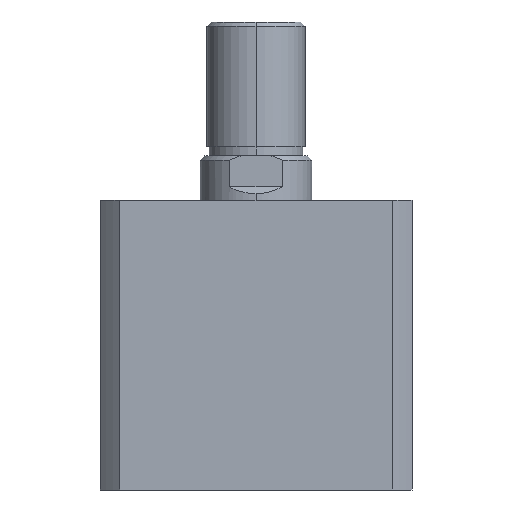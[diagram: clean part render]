
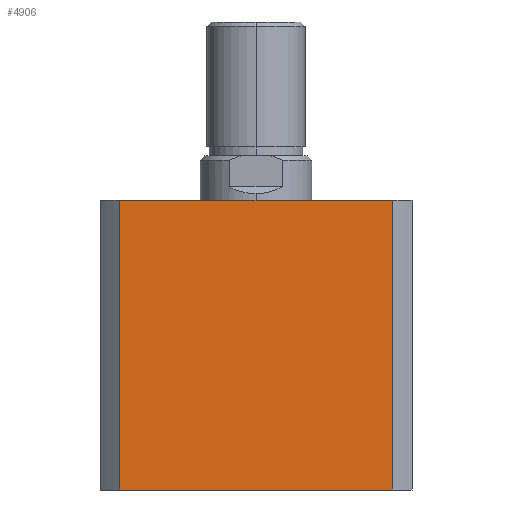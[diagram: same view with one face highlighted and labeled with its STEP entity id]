
A CAD part, left-side view. The second image highlights one B-rep face of the part: STEP entity #4906.
In plain terms, the highlighted planar face has unit normal (-1, 0, 0).
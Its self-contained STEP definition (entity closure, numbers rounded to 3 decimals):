
#17 = CARTESIAN_POINT ( 'NONE',  ( -35., -30.615, 65. ) ) ;
#18 = CARTESIAN_POINT ( 'NONE',  ( -35., 30.615, 65. ) ) ;
#80 = CARTESIAN_POINT ( 'NONE',  ( -35., -30.615, 0. ) ) ;
#187 = CARTESIAN_POINT ( 'NONE',  ( -35., 30.615, 0. ) ) ;
#345 = DIRECTION ( 'NONE',  ( 0., -1., 0. ) ) ;
#349 = CARTESIAN_POINT ( 'NONE',  ( -35., 0., 0. ) ) ;
#1096 = EDGE_LOOP ( 'NONE', ( #1993, #1994, #1995, #1996 ) ) ;
#1420 = FACE_OUTER_BOUND ( 'NONE', #1096, .T. ) ;
#1993 = ORIENTED_EDGE ( 'NONE', *, *, #4026, .T. ) ;
#1994 = ORIENTED_EDGE ( 'NONE', *, *, #3992, .F. ) ;
#1995 = ORIENTED_EDGE ( 'NONE', *, *, #3991, .F. ) ;
#1996 = ORIENTED_EDGE ( 'NONE', *, *, #3994, .T. ) ;
#2149 = VERTEX_POINT ( 'NONE', #187 ) ;
#2226 = VERTEX_POINT ( 'NONE', #80 ) ;
#2268 = VERTEX_POINT ( 'NONE', #18 ) ;
#2269 = VERTEX_POINT ( 'NONE', #17 ) ;
#2530 = VECTOR ( 'NONE', #345, 1000. ) ;
#2533 = LINE ( 'NONE', #349, #2530 ) ;
#2546 = DIRECTION ( 'NONE',  ( 0., 0., -1. ) ) ;
#2547 = CARTESIAN_POINT ( 'NONE',  ( -35., 30.615, 65. ) ) ;
#2548 = CARTESIAN_POINT ( 'NONE',  ( -35., -30.615, 65. ) ) ;
#2549 = DIRECTION ( 'NONE',  ( 0., -1., 0. ) ) ;
#2550 = DIRECTION ( 'NONE',  ( 0., 0., -1. ) ) ;
#2554 = CARTESIAN_POINT ( 'NONE',  ( -35., 0., 65. ) ) ;
#3395 = CARTESIAN_POINT ( 'NONE',  ( -35., 0., 65. ) ) ;
#3400 = PLANE ( 'NONE',  #4401 ) ;
#3403 = DIRECTION ( 'NONE',  ( 1., 0., 0. ) ) ;
#3404 = DIRECTION ( 'NONE',  ( 0., 1., 0. ) ) ;
#3594 = VECTOR ( 'NONE', #2550, 1000. ) ;
#3596 = LINE ( 'NONE', #2547, #3594 ) ;
#3597 = VECTOR ( 'NONE', #2546, 1000. ) ;
#3599 = VECTOR ( 'NONE', #2549, 1000. ) ;
#3600 = LINE ( 'NONE', #2548, #3597 ) ;
#3605 = LINE ( 'NONE', #2554, #3599 ) ;
#3991 = EDGE_CURVE ( 'NONE', #2268, #2269, #3605, .T. ) ;
#3992 = EDGE_CURVE ( 'NONE', #2269, #2226, #3600, .T. ) ;
#3994 = EDGE_CURVE ( 'NONE', #2268, #2149, #3596, .T. ) ;
#4026 = EDGE_CURVE ( 'NONE', #2149, #2226, #2533, .T. ) ;
#4401 = AXIS2_PLACEMENT_3D ( 'NONE', #3395, #3403, #3404 ) ;
#4906 = ADVANCED_FACE ( 'NONE', ( #1420 ), #3400, .F. ) ;
